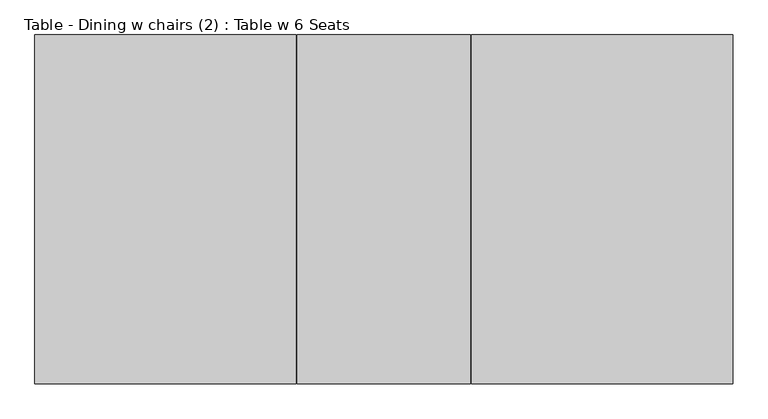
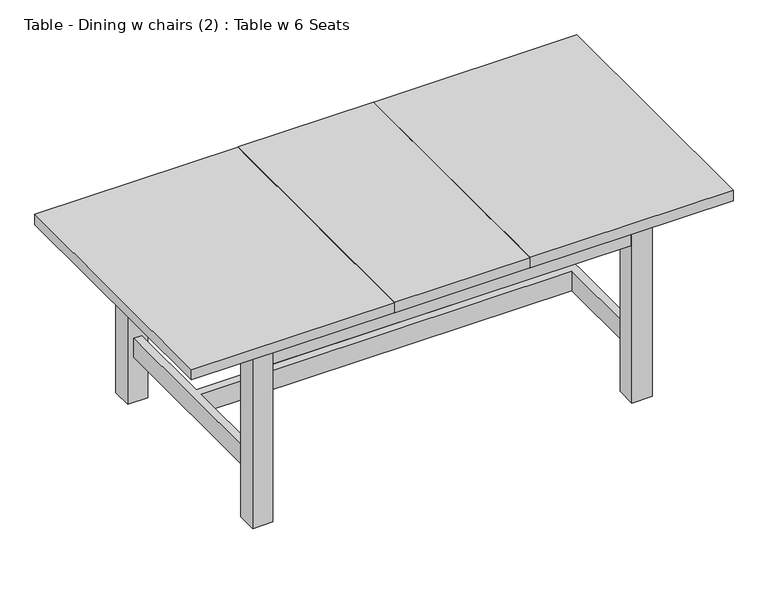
"""IFC4 building model written with IfcOpenShell, lengths in millimetres: furniture geometry, Table - Dining w chairs (2) : Table w 6 Seats."""

from ifc_helpers import new_model, si_unit, frame, origin, origin_with_axes, place, context, project, spatial, polyline, outline, extrude, faceted_brep, source, transform, mapped, element, save


def table_dining_w_chairs_2_table_w_6_seats_8ff34d8f(model_context):
    return source(origin(), model_context, "Body", "SolidModel", [
        extrude(outline(polyline([(-544.3212781, 474.3546292), (780.6787219, 474.3546292), (780.6787219, 454.3546292), (-544.3212781, 454.3546292), (-544.3212781, 474.3546292)])), frame((0.0, 0.0, 610.0), z_axis=(0.0, 0.0, 1.0), x_axis=(1.0, 0.0, 0.0)), (0.0, 0.0, 1.0), 100.0),
        extrude(outline(polyline([(-611.8212781, -318.1453708), (-611.8212781, 406.8546292), (-591.8212781, 406.8546292), (-591.8212781, -318.1453708), (-611.8212781, -318.1453708)])), frame((0.0, 0.0, 610.0), z_axis=(0.0, 0.0, 1.0), x_axis=(1.0, 0.0, 0.0)), (0.0, 0.0, 1.0), 100.0),
        extrude(outline(polyline([(780.6787219, -385.6453708), (-544.3212781, -385.6453708), (-544.3212781, -365.6453708), (780.6787219, -365.6453708), (780.6787219, -385.6453708)])), frame((0.0, 0.0, 610.0), z_axis=(0.0, 0.0, 1.0), x_axis=(1.0, 0.0, 0.0)), (0.0, 0.0, 1.0), 100.0),
        extrude(outline(polyline([(848.1787219, 406.8546292), (848.1787219, -318.1453708), (828.1787219, -318.1453708), (828.1787219, 406.8546292), (848.1787219, 406.8546292)])), frame((0.0, 0.0, 610.0), z_axis=(0.0, 0.0, 1.0), x_axis=(1.0, 0.0, 0.0)), (0.0, 0.0, 1.0), 100.0),
        faceted_brep([(1118.1787219, -455.6453708, 750.0), (1118.1787219, 544.3546292, 750.0), (369.6787219, 544.3546292, 750.0), (369.6787219, -455.6453708, 750.0), (-881.8212781, 544.3546292, 750.0), (-881.8212781, -455.6453708, 750.0), (-133.3212781, -455.6453708, 750.0), (-133.3212781, 544.3546292, 750.0), (366.6787219, 544.3546292, 750.0), (-130.3212781, 544.3546292, 750.0), (-130.3212781, -455.6453708, 750.0), (366.6787219, -455.6453708, 750.0), (-881.8212781, -455.6453708, 710.0), (-881.8212781, 544.3546292, 710.0), (-133.3212781, 544.3546292, 710.0), (-131.8212781, 542.8546292, 710.0), (-130.3212781, 544.3546292, 710.0), (366.6787219, 544.3546292, 710.0), (368.1787219, 542.8546292, 710.0), (369.6787219, 544.3546292, 710.0), (1118.1787219, 544.3546292, 710.0), (1118.1787219, -455.6453708, 710.0), (369.6787219, -455.6453708, 710.0), (368.1787219, -454.1453708, 710.0), (366.6787219, -455.6453708, 710.0), (-130.3212781, -455.6453708, 710.0), (-131.8212781, -454.1453708, 710.0), (-133.3212781, -455.6453708, 710.0), (-131.8212781, 542.8546292, 748.5), (368.1787219, 542.8546292, 748.5), (-131.8212781, -454.1453708, 748.5), (368.1787219, -454.1453708, 748.5)], [[[0, 1, 2, 3]], [[4, 5, 6, 7]], [[8, 9, 10, 11]], [[12, 13, 14, 15, 16, 17, 18, 19, 20, 21, 22, 23, 24, 25, 26, 27]], [[1, 0, 21, 20]], [[9, 8, 17, 16]], [[1, 20, 19, 2]], [[13, 4, 7, 14]], [[5, 4, 13, 12]], [[11, 10, 25, 24]], [[21, 0, 3, 22]], [[5, 12, 27, 6]], [[15, 28, 9, 16]], [[28, 15, 14, 7]], [[18, 29, 2, 19]], [[29, 18, 17, 8]], [[9, 28, 30, 10]], [[28, 7, 6, 30]], [[2, 29, 31, 3]], [[29, 8, 11, 31]], [[10, 30, 26, 25]], [[30, 6, 27, 26]], [[3, 31, 23, 22]], [[31, 11, 24, 23]]]),
        extrude(outline(polyline([(-566.8212781, -318.1453708), (-596.8212781, -318.1453708), (-596.8212781, 406.8546292), (-566.8212781, 406.8546292), (-566.8212781, 59.3546292), (803.1787219, 59.3546292), (803.1787219, 406.8546292), (833.1787219, 406.8546292), (833.1787219, -318.1453708), (803.1787219, -318.1453708), (803.1787219, 29.3546292), (-566.8212781, 29.3546292), (-566.8212781, -318.1453708)])), frame((0.0, 0.0, 175.0), z_axis=(0.0, 0.0, 1.0), x_axis=(1.0, 0.0, 0.0)), (0.0, 0.0, 1.0), 75.0),
        extrude(outline(polyline([(-544.3212781, -393.1453708), (-619.3212781, -393.1453708), (-619.3212781, -318.1453708), (-544.3212781, -318.1453708), (-544.3212781, -393.1453708)])), origin_with_axes(), (0.0, 0.0, 1.0), 710.0),
        extrude(outline(polyline([(780.6787219, 481.8546292), (855.6787219, 481.8546292), (855.6787219, 406.8546292), (780.6787219, 406.8546292), (780.6787219, 481.8546292)])), origin_with_axes(), (0.0, 0.0, 1.0), 710.0),
        extrude(outline(polyline([(780.6787219, -318.1453708), (855.6787219, -318.1453708), (855.6787219, -393.1453708), (780.6787219, -393.1453708), (780.6787219, -318.1453708)])), origin_with_axes(), (0.0, 0.0, 1.0), 710.0),
        extrude(outline(polyline([(-544.3212781, 481.8546292), (-544.3212781, 406.8546292), (-619.3212781, 406.8546292), (-619.3212781, 481.8546292), (-544.3212781, 481.8546292)])), origin_with_axes(), (0.0, 0.0, 1.0), 710.0),
    ])


if __name__ == "__main__":
    model = new_model("IFC4")
    model_context = context("Model", 3, world=origin())
    ifc_project = project(units=[si_unit("LENGTHUNIT", "METRE", prefix="MILLI")], contexts=[model_context])
    site = spatial("IfcSite", under=ifc_project)
    building = spatial("IfcBuilding", under=site)
    placement = place(None, origin())
    table_dining_w_chairs_2_table_w_6_seats_shape = table_dining_w_chairs_2_table_w_6_seats_8ff34d8f(model_context)
    element("IfcFurniture", 1, ObjectType="Table - Dining w chairs (2) : Table w 6 Seats", at=placement, inside=building, context=model_context, shape_type="MappedRepresentation", body=[
        mapped(table_dining_w_chairs_2_table_w_6_seats_shape, transform((0.0, 0.0, 0.0), x_axis=(1.0, 0.0, 0.0), y_axis=(0.0, 1.0, 0.0), z_axis=(0.0, 0.0, 1.0))),
    ])
    save(model, "model.ifc")
